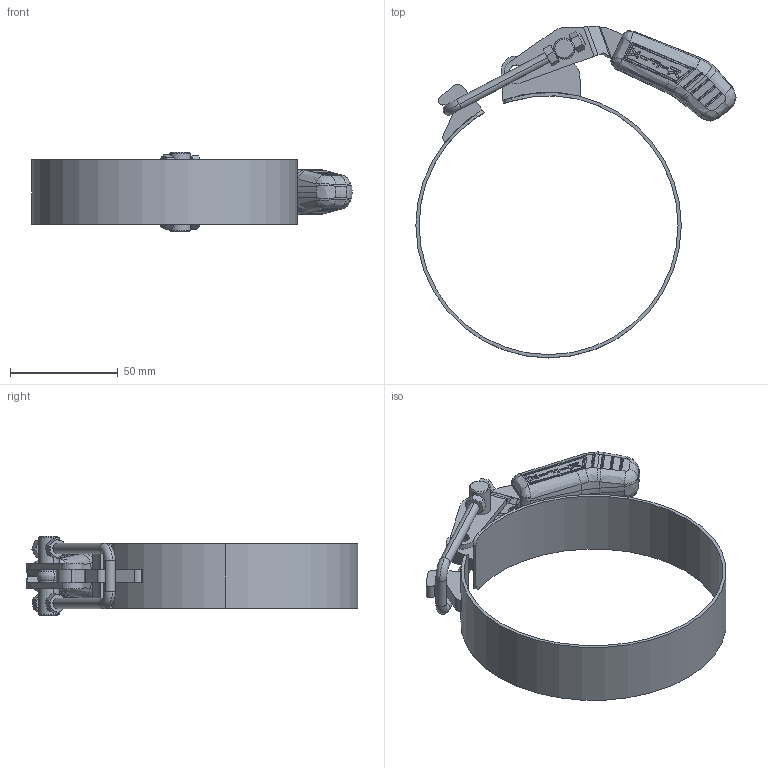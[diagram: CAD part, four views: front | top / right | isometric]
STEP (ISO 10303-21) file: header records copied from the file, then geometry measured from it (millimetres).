
FILE_DESCRIPTION (( 'STEP AP203' ), '1' );
FILE_NAME ('KF-743 CT120.STEP', '2020-10-01T12:56:08', ( '' ), ( '' ), 'SwSTEP 2.0', 'SolidWorks 2020', '' );
FILE_SCHEMA (( 'CONFIG_CONTROL_DESIGN' ));
Length unit declared in the file: millimetre
Products named in the file (11): 03.20018; 16.20034; 02.10116; 01.10408_esquerda; 11.50013; 11.50005; KF-743 CT120; 01.10408; 15.10208; 07.60005; 22.10101
Assembly tree (12 placements, depth 2):
  KF-743 CT120
    22.10101
    02.10116
    01.10408_esquerda
    01.10408
    15.10208
    16.20034
    03.20018
    11.50005  x2
    11.50013  x2
    07.60005
Bounding box: 148.42 x 153.82 x 37 mm (x, y, z)
Volume: 50589.3 mm3; surface area: 44152.8 mm2
Topology: 12 solids, 12 shells, 846 faces, 2151 edges, 1339 vertices
Faces by surface type: bspline 275, cylinder 239, plane 210, cone 64, sphere 50, torus 8
Entity records: 32378 total; most frequent: CARTESIAN_POINT 14606, ORIENTED_EDGE 4070, DIRECTION 2639, EDGE_CURVE 2035, VERTEX_POINT 1272, AXIS2_PLACEMENT_3D 989, EDGE_LOOP 829, ADVANCED_FACE 797
